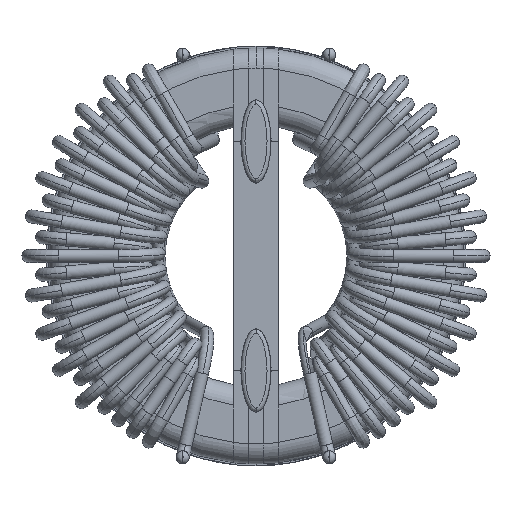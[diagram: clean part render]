
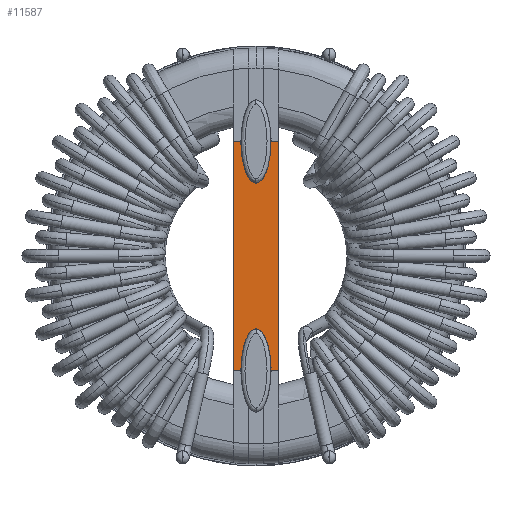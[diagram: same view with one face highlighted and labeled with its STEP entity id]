
A CAD part, front view. The second image highlights one B-rep face of the part: STEP entity #11587.
In plain terms, the highlighted planar face has unit normal (0, -1, 0).
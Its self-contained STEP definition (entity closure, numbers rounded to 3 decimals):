
#732 = VERTEX_POINT ( 'NONE', #38623 ) ;
#3088 = VERTEX_POINT ( 'NONE', #28111 ) ;
#3216 = VERTEX_POINT ( 'NONE', #46221 ) ;
#3879 = DIRECTION ( 'NONE',  ( 1., 0., 0. ) ) ;
#4558 = EDGE_CURVE ( 'NONE', #3216, #34049, #33581, .T. ) ;
#4683 = CARTESIAN_POINT ( 'NONE',  ( 0.75, -5.95, 1.565 ) ) ;
#5130 = CARTESIAN_POINT ( 'NONE',  ( 17.604, -5.95, 5.7 ) ) ;
#5625 = CARTESIAN_POINT ( 'NONE',  ( -0.75, -5.95, 1.565 ) ) ;
#6285 = DIRECTION ( 'NONE',  ( 0., 0., 1. ) ) ;
#6425 = CARTESIAN_POINT ( 'NONE',  ( 1.125, -5.95, 5.7 ) ) ;
#6577 = CARTESIAN_POINT ( 'NONE',  ( 0.75, -5.95, 5.7 ) ) ;
#7269 = CARTESIAN_POINT ( 'NONE',  ( 0., -5.95, 0. ) ) ;
#10587 = ORIENTED_EDGE ( 'NONE', *, *, #55900, .F. ) ;
#11587 = ADVANCED_FACE ( 'NONE', ( #52366 ), #32634, .F. ) ;
#11866 = CARTESIAN_POINT ( 'NONE',  ( -0.75, -5.95, -5.7 ) ) ;
#13556 = LINE ( 'NONE', #5130, #16718 ) ;
#14576 = CARTESIAN_POINT ( 'NONE',  ( 0.75, -5.95, 5.7 ) ) ;
#14770 = DIRECTION ( 'NONE',  ( 0., 0., -1. ) ) ;
#15180 = VECTOR ( 'NONE', #14770, 1000. ) ;
#16718 = VECTOR ( 'NONE', #42742, 1000. ) ;
#17563 = ORIENTED_EDGE ( 'NONE', *, *, #4558, .T. ) ;
#18392 = EDGE_CURVE ( 'NONE', #3088, #54131, #35088, .T. ) ;
#18767 = AXIS2_PLACEMENT_3D ( 'NONE', #7269, #26937, #23182 ) ;
#18813 = EDGE_CURVE ( 'NONE', #3088, #37310, #31632, .T. ) ;
#19493 = VERTEX_POINT ( 'NONE', #53803 ) ;
#20796 = VERTEX_POINT ( 'NONE', #14576 ) ;
#21933 = CARTESIAN_POINT ( 'NONE',  ( -1.125, -5.95, -5.7 ) ) ;
#22005 = EDGE_CURVE ( 'NONE', #37310, #20796, #13556, .T. ) ;
#22493 = EDGE_CURVE ( 'NONE', #34049, #732, #33031, .T. ) ;
#23182 = DIRECTION ( 'NONE',  ( 0., 0., 1. ) ) ;
#25002 = CARTESIAN_POINT ( 'NONE',  ( 0.75, -5.95, -5.7 ) ) ;
#25545 = ORIENTED_EDGE ( 'NONE', *, *, #18813, .T. ) ;
#26937 = DIRECTION ( 'NONE',  ( 0., 1., 0. ) ) ;
#27654 = VECTOR ( 'NONE', #6285, 1000. ) ;
#27923 = CARTESIAN_POINT ( 'NONE',  ( -1.125, -5.95, -5.7 ) ) ;
#28111 = CARTESIAN_POINT ( 'NONE',  ( 1.125, -5.95, -5.7 ) ) ;
#28446 = VECTOR ( 'NONE', #31321, 1000. ) ;
#28663 = CARTESIAN_POINT ( 'NONE',  ( 0.75, -5.95, -5.7 ) ) ;
#29533 =( BOUNDED_CURVE ( )  B_SPLINE_CURVE ( 3, ( #6577, #4683, #5625, #53547 ),
 .UNSPECIFIED., .F., .F. ) 
 B_SPLINE_CURVE_WITH_KNOTS ( ( 4, 4 ),
 ( 1.571, 4.712 ),
 .UNSPECIFIED. ) 
 CURVE ( )  GEOMETRIC_REPRESENTATION_ITEM ( )  RATIONAL_B_SPLINE_CURVE ( ( 1., 0.333, 0.333, 1. ) ) 
 REPRESENTATION_ITEM ( '' )  );
#29553 = DIRECTION ( 'NONE',  ( 1., 0., 0. ) ) ;
#29823 = VECTOR ( 'NONE', #29553, 1000. ) ;
#30901 = EDGE_CURVE ( 'NONE', #20796, #19493, #29533, .T. ) ;
#31321 = DIRECTION ( 'NONE',  ( -1., 0., 0. ) ) ;
#31632 = LINE ( 'NONE', #51385, #27654 ) ;
#32086 = CARTESIAN_POINT ( 'NONE',  ( -17.604, -5.95, -5.7 ) ) ;
#32634 = PLANE ( 'NONE',  #18767 ) ;
#33031 = LINE ( 'NONE', #32086, #52582 ) ;
#33581 = LINE ( 'NONE', #27923, #15180 ) ;
#34049 = VERTEX_POINT ( 'NONE', #21933 ) ;
#35088 = LINE ( 'NONE', #41674, #28446 ) ;
#36165 = LINE ( 'NONE', #39011, #29823 ) ;
#37255 = CARTESIAN_POINT ( 'NONE',  ( -0.75, -5.95, -1.565 ) ) ;
#37310 = VERTEX_POINT ( 'NONE', #6425 ) ;
#38623 = CARTESIAN_POINT ( 'NONE',  ( -0.75, -5.95, -5.7 ) ) ;
#38780 = EDGE_CURVE ( 'NONE', #54131, #732, #39222, .T. ) ;
#39011 = CARTESIAN_POINT ( 'NONE',  ( -17.604, -5.95, 5.7 ) ) ;
#39222 =( BOUNDED_CURVE ( )  B_SPLINE_CURVE ( 3, ( #25002, #52272, #37255, #11866 ),
 .UNSPECIFIED., .F., .F. ) 
 B_SPLINE_CURVE_WITH_KNOTS ( ( 4, 4 ),
 ( 1.571, 4.712 ),
 .UNSPECIFIED. ) 
 CURVE ( )  GEOMETRIC_REPRESENTATION_ITEM ( )  RATIONAL_B_SPLINE_CURVE ( ( 1., 0.333, 0.333, 1. ) ) 
 REPRESENTATION_ITEM ( '' )  );
#41674 = CARTESIAN_POINT ( 'NONE',  ( 17.604, -5.95, -5.7 ) ) ;
#42742 = DIRECTION ( 'NONE',  ( -1., 0., 0. ) ) ;
#43508 = EDGE_LOOP ( 'NONE', ( #57926, #43581, #55921, #25545, #57519, #47556, #10587, #17563 ) ) ;
#43581 = ORIENTED_EDGE ( 'NONE', *, *, #38780, .F. ) ;
#46221 = CARTESIAN_POINT ( 'NONE',  ( -1.125, -5.95, 5.7 ) ) ;
#47556 = ORIENTED_EDGE ( 'NONE', *, *, #30901, .T. ) ;
#51385 = CARTESIAN_POINT ( 'NONE',  ( 1.125, -5.95, 5.7 ) ) ;
#52272 = CARTESIAN_POINT ( 'NONE',  ( 0.75, -5.95, -1.565 ) ) ;
#52366 = FACE_OUTER_BOUND ( 'NONE', #43508, .T. ) ;
#52582 = VECTOR ( 'NONE', #3879, 1000. ) ;
#53547 = CARTESIAN_POINT ( 'NONE',  ( -0.75, -5.95, 5.7 ) ) ;
#53803 = CARTESIAN_POINT ( 'NONE',  ( -0.75, -5.95, 5.7 ) ) ;
#54131 = VERTEX_POINT ( 'NONE', #28663 ) ;
#55900 = EDGE_CURVE ( 'NONE', #3216, #19493, #36165, .T. ) ;
#55921 = ORIENTED_EDGE ( 'NONE', *, *, #18392, .F. ) ;
#57519 = ORIENTED_EDGE ( 'NONE', *, *, #22005, .T. ) ;
#57926 = ORIENTED_EDGE ( 'NONE', *, *, #22493, .T. ) ;
